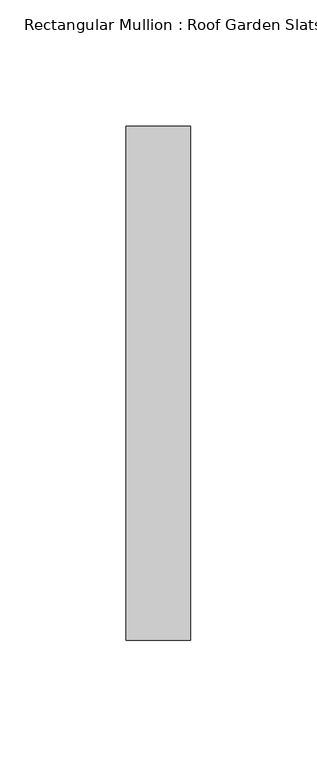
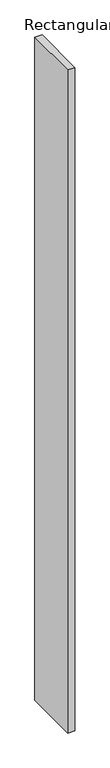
"""IFC4 building model written with IfcOpenShell, lengths in millimetres: member geometry, Rectangular Mullion : Roof Garden Slats."""

from ifc_helpers import new_model, si_unit, frame, origin, place, context, project, spatial, polyline, outline, extrude, source, transform, mapped, element, save


def rectangular_mullion_roof_garden_slats_c5b3d36d(model_context):
    return source(origin(), model_context, "Body", "SweptSolid", [
        extrude(outline(polyline([(12.7, 139.7), (12.7, -63.5), (-12.7, -63.5), (-12.7, 139.7), (12.7, 139.7)])), frame((0.0, 0.0, -2502.7174251), z_axis=(0.0, 0.0, 1.0), x_axis=(1.0, 0.0, 0.0)), (0.0, 0.0, 1.0), 2502.7174251),
    ])


if __name__ == "__main__":
    model = new_model("IFC4")
    model_context = context("Model", 3, world=origin())
    ifc_project = project(units=[si_unit("LENGTHUNIT", "METRE", prefix="MILLI")], contexts=[model_context])
    site = spatial("IfcSite", under=ifc_project)
    building = spatial("IfcBuilding", under=site)
    placement = place(None, origin())
    rectangular_mullion_roof_garden_slats_shape = rectangular_mullion_roof_garden_slats_c5b3d36d(model_context)
    element("IfcMember", 1, ObjectType="Rectangular Mullion : Roof Garden Slats", at=placement, inside=building, context=model_context, shape_type="MappedRepresentation", body=[
        mapped(rectangular_mullion_roof_garden_slats_shape, transform((0.0, 0.0, 0.0), x_axis=(1.0, 0.0, 0.0), y_axis=(0.0, 1.0, 0.0), z_axis=(0.0, 0.0, 1.0))),
    ])
    save(model, "model.ifc")
